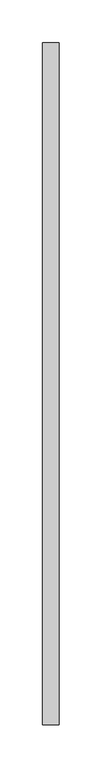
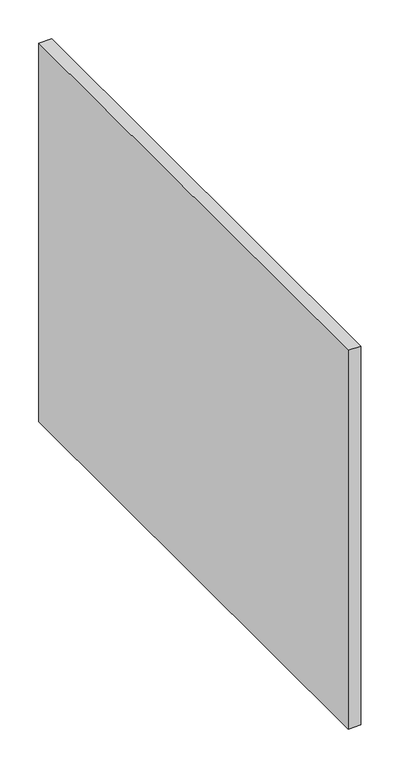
"""IFC4 building model written with IfcOpenShell, lengths in millimetres: proxy geometry, FOUNDATION^STANDARD CREDENZA_WEBSITE DETAIL-LEFT PARTITION."""

from ifc_helpers import new_model, si_unit, frame, origin, place, context, project, spatial, polyline, outline, extrude, source, transform, mapped, element, save


def generic_models_8c1c22c7(model_context):
    return source(origin(), model_context, "Body", "SweptSolid", [
        extrude(outline(polyline([(633.4125, 57.15), (614.3625, 57.15), (614.3625, 850.9), (633.4125, 850.9), (633.4125, 57.15)])), frame((0.0, 0.0, 19.05), z_axis=(0.0, 0.0, 1.0), x_axis=(1.0, 0.0, 0.0)), (0.0, 0.0, 1.0), 593.725),
    ])


if __name__ == "__main__":
    model = new_model("IFC4")
    model_context = context("Model", 3, world=origin())
    ifc_project = project(units=[si_unit("LENGTHUNIT", "METRE", prefix="MILLI")], contexts=[model_context])
    site = spatial("IfcSite", under=ifc_project)
    building = spatial("IfcBuilding", under=site)
    placement = place(None, origin())
    generic_models_shape = generic_models_8c1c22c7(model_context)
    element("IfcBuildingElementProxy", 1, Name="FOUNDATION^STANDARD CREDENZA_WEBSITE DETAIL-LEFT PARTITION", ObjectType="FOUNDATION^STANDARD CREDENZA_WEBSITE DETAIL-LEFT PARTITION", at=placement, inside=building, context=model_context, shape_type="MappedRepresentation", body=[
        mapped(generic_models_shape, transform((0.0, 0.0, 0.0), x_axis=(1.0, 0.0, 0.0), y_axis=(0.0, 1.0, 0.0), z_axis=(0.0, 0.0, 1.0))),
    ])
    save(model, "model.ifc")
